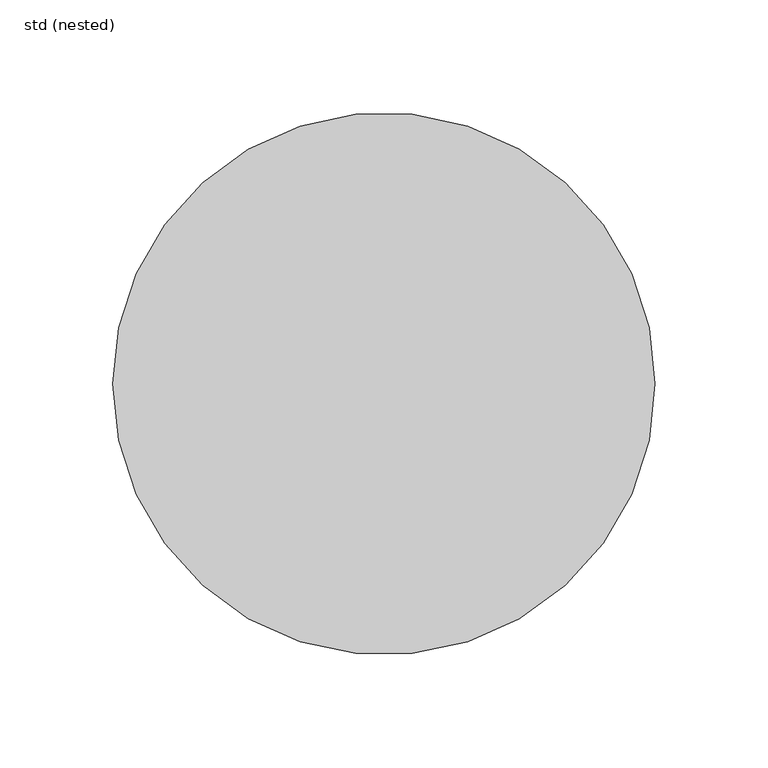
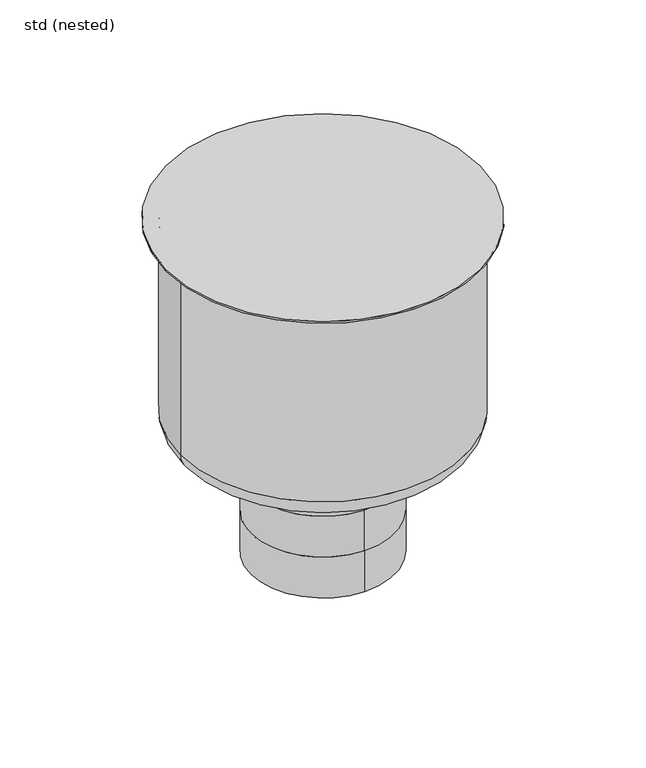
"""IFC4 building model written with IfcOpenShell, lengths in millimetres: sanitary terminal geometry, ZZZ_do not use_PF_ST_UN_telescopic hygienic gully_ACO : std (nested)."""

from ifc_helpers import new_model, si_unit, point, frame, origin, origin_with_axes, place, context, project, spatial, circle_curve, ellipse_curve, trimmed, source, transform, mapped, element, save
from ifc_brep_helpers import plane_surface, cylinder_surface, revolved_surface, advanced_brep


def std_nested_d116548a(model_context):
    return source(origin(), model_context, "Body", "AdvancedBrep", [
        advanced_brep(
        [(0.0, -55.0, -269.0), (0.0, 55.0, -269.0), (0.0, -55.0, -236.0), (0.0, 55.0, -236.0), (0.0, -55.0, -203.0), (0.0, 55.0, -203.0), (0.0, 55.0, -170.0), (55.0, 0.0, -170.0), (0.0, -55.0, -170.0), (-55.0, 0.0, -170.0), (109.0, 0.0, -153.5), (-109.0, 0.0, -153.5), (-109.0, 0.0, -1.5), (109.0, 0.0, -1.5), (92.5, 0.0, -170.0), (-92.5, 0.0, -170.0), (-120.0, 0.0, -1.5), (120.0, 0.0, -1.5), (-120.0, 0.0, 0.0), (120.0, 0.0, 0.0)],
        [
            (0, 1, circle_curve(frame((0.0, 0.0, -269.0), z_axis=(0.0, 0.0, -1.0), x_axis=(0.0, 1.0, 0.0)), 55.0)),
            (1, 0, circle_curve(frame((0.0, 0.0, -269.0), z_axis=(0.0, 0.0, -1.0), x_axis=(0.0, 1.0, 0.0)), 55.0)),
            (0, 2),
            (2, 3, circle_curve(frame((0.0, 0.0, -236.0), z_axis=(0.0, 0.0, -1.0), x_axis=(0.0, 1.0, 0.0)), 55.0)),
            (3, 1),
            (3, 2, circle_curve(frame((0.0, 0.0, -236.0), z_axis=(0.0, 0.0, -1.0), x_axis=(0.0, 1.0, 0.0)), 55.0)),
            (4, 2),
            (3, 5),
            (5, 4, circle_curve(frame((0.0, 0.0, -203.0), z_axis=(0.0, 0.0, -1.0), x_axis=(1.0, 0.0, 0.0)), 55.0)),
            (4, 5, circle_curve(frame((0.0, 0.0, -203.0), z_axis=(0.0, 0.0, -1.0), x_axis=(-1.0, 0.0, 0.0)), 55.0)),
            (5, 6),
            (6, 7, circle_curve(frame((0.0, 0.0, -170.0), z_axis=(0.0, 0.0, -1.0), x_axis=(0.0, 1.0, 0.0)), 55.0)),
            (7, 8, circle_curve(frame((0.0, 0.0, -170.0), z_axis=(0.0, 0.0, -1.0), x_axis=(0.0, 1.0, 0.0)), 55.0)),
            (8, 4),
            (8, 9, circle_curve(frame((0.0, 0.0, -170.0), z_axis=(0.0, 0.0, -1.0), x_axis=(0.0, 1.0, 0.0)), 55.0)),
            (9, 6, circle_curve(frame((0.0, 0.0, -170.0), z_axis=(0.0, 0.0, -1.0), x_axis=(0.0, 1.0, 0.0)), 55.0)),
            (10, 11, circle_curve(frame((0.0, 0.0, -153.5), z_axis=(0.0, 0.0, 1.0), x_axis=(-1.0, 0.0, 0.0)), 109.0)),
            (11, 12),
            (12, 13, circle_curve(frame((0.0, 0.0, -1.5), z_axis=(0.0, 0.0, -1.0), x_axis=(-1.0, 0.0, 0.0)), 109.0)),
            (13, 10),
            (11, 10, circle_curve(frame((0.0, 0.0, -153.5), z_axis=(0.0, 0.0, 1.0), x_axis=(-1.0, 0.0, 0.0)), 109.0)),
            (13, 12, circle_curve(frame((0.0, 0.0, -1.5), z_axis=(0.0, 0.0, -1.0), x_axis=(-1.0, 0.0, 0.0)), 109.0)),
            (10, 14, circle_curve(frame((92.5, 0.0, -153.5), z_axis=(0.0, 1.0, 0.0), x_axis=(-1.0, 0.0, 0.0)), 16.5)),
            (14, 15, circle_curve(frame((0.0, 0.0, -170.0), z_axis=(0.0, 0.0, 1.0), x_axis=(-1.0, 0.0, 0.0)), 92.5)),
            (15, 11, circle_curve(frame((-92.5, 0.0, -153.5), z_axis=(0.0, 1.0, 0.0), x_axis=(1.0, 0.0, 0.0)), 16.5)),
            (15, 14, circle_curve(frame((0.0, 0.0, -170.0), z_axis=(0.0, 0.0, 1.0), x_axis=(-1.0, 0.0, 0.0)), 92.5)),
            (14, 7),
            (9, 15),
            (16, 17, circle_curve(frame((0.0, 0.0, -1.5), z_axis=(0.0, 0.0, -1.0), x_axis=(1.0, 0.0, 0.0)), 120.0)),
            (17, 16, circle_curve(frame((0.0, 0.0, -1.5), z_axis=(0.0, 0.0, -1.0), x_axis=(1.0, 0.0, 0.0)), 120.0)),
            (18, 19, circle_curve(origin_with_axes(), 120.0)),
            (19, 18, circle_curve(origin_with_axes(), 120.0)),
            (17, 19),
            (18, 16),
        ],
        [
            plane_surface(frame((0.0, 55.0, -269.0), z_axis=(0.0, 0.0, -1.0), x_axis=(1.0, 0.0, 0.0))),
            cylinder_surface(frame((0.0, 0.0, -236.0), z_axis=(0.0, 0.0, -1.0), x_axis=(0.0, 1.0, 0.0)), 55.0),
            cylinder_surface(frame((0.0, 0.0, -203.0), z_axis=(0.0, 0.0, -1.0), x_axis=(1.0, 0.0, 0.0)), 55.0),
            cylinder_surface(frame((0.0, 0.0, -203.0), z_axis=(0.0, 0.0, -1.0), x_axis=(-1.0, 0.0, 0.0)), 55.0),
            cylinder_surface(frame((0.0, 0.0, -170.0), z_axis=(0.0, 0.0, -1.0), x_axis=(0.0, 1.0, 0.0)), 55.0),
            cylinder_surface(frame((0.0, 0.0, 60.0), z_axis=(0.0, 0.0, -1.0), x_axis=(-1.0, 0.0, 0.0)), 109.0),
            revolved_surface(trimmed(ellipse_curve(frame((-92.5, 0.0, -153.5), z_axis=(0.0, -1.0, 0.0), x_axis=(1.0, 0.0, 0.0)), 16.5, 16.5), [point((-109.0, 0.0, -153.5))], [point((-92.5, 0.0, -170.0))], True, "CARTESIAN"), (0.0, 0.0, 60.0), (0.0, 0.0, -1.0)),
            plane_surface(frame((0.0, 0.0, -170.0), z_axis=(0.0, 0.0, -1.0), x_axis=(-1.0, 0.0, 0.0))),
            plane_surface(frame((120.0, 0.0, -1.5), z_axis=(0.0, 0.0, -1.0), x_axis=(0.0, -1.0, 0.0))),
            plane_surface(frame((120.0, 0.0, 0.0), z_axis=(0.0, 0.0, 1.0), x_axis=(0.0, 1.0, 0.0))),
            cylinder_surface(frame((0.0, 0.0, -1.5), z_axis=(0.0, 0.0, 1.0), x_axis=(1.0, 0.0, 0.0)), 120.0),
        ],
        [
            (0, [[1, 2]]),
            (1, [[-1, 3, 4, 5]]),
            (1, [[-2, -5, 6, -3]]),
            (2, [[7, -6, 8, 9]]),
            (3, [[-7, 10, -8, -4]]),
            (4, [[11, 12, 13, 14, -9]]),
            (4, [[-11, -10, -14, 15, 16]]),
            (5, [[17, 18, 19, 20]]),
            (5, [[-18, 21, -20, 22]]),
            (6, [[-17, 23, 24, 25]]),
            (6, [[-21, -25, 26, -23]]),
            (7, [[-24, 27, -12, -16, 28]]),
            (7, [[-26, -28, -15, -13, -27]]),
            (8, [[29, 30], [-19, -22]]),
            (9, [[31, 32]]),
            (10, [[-30, 33, -31, 34]]),
            (10, [[-29, -34, -32, -33]]),
        ],
    ),
    ])


if __name__ == "__main__":
    model = new_model("IFC4")
    model_context = context("Model", 3, world=origin())
    ifc_project = project(units=[si_unit("LENGTHUNIT", "METRE", prefix="MILLI")], contexts=[model_context])
    site = spatial("IfcSite", under=ifc_project)
    building = spatial("IfcBuilding", under=site)
    placement = place(None, origin())
    std_nested_shape = std_nested_d116548a(model_context)
    element("IfcSanitaryTerminal", 1, ObjectType="ZZZ_do not use_PF_ST_UN_telescopic hygienic gully_ACO : std (nested)", at=placement, inside=building, context=model_context, shape_type="MappedRepresentation", body=[
        mapped(std_nested_shape, transform((0.0, 0.0, 0.0), x_axis=(1.0, 0.0, 0.0), y_axis=(0.0, 1.0, 0.0), z_axis=(0.0, 0.0, 1.0))),
    ])
    save(model, "model.ifc")
